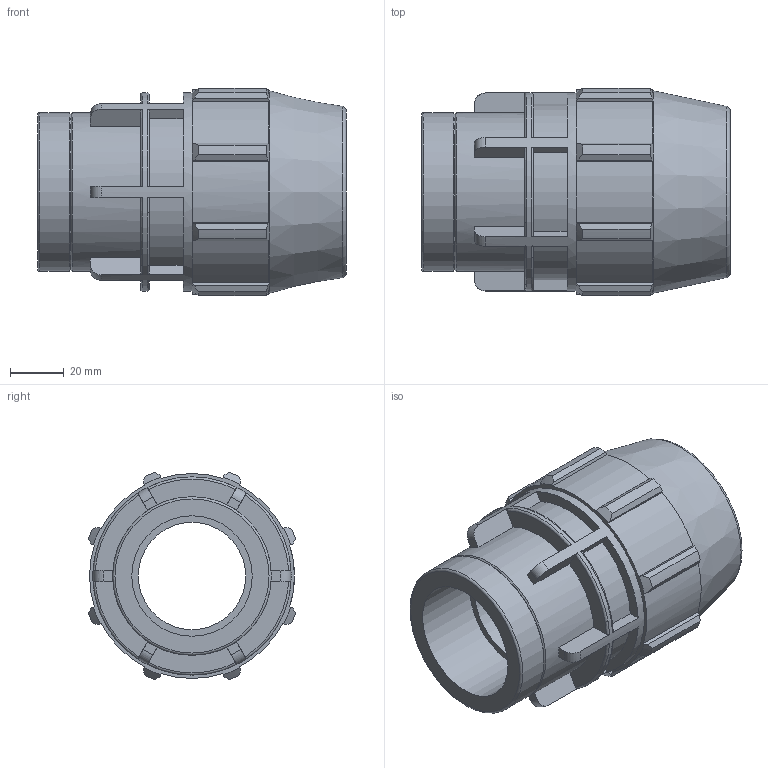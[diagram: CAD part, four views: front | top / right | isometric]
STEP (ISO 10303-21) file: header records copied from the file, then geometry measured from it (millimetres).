
FILE_DESCRIPTION(/* description */ ('PLASSON FEMALE ADAPTOR G 1 1/4'''' - 1 1/2''''F'),/* implementation_level */ '2;1');
FILE_NAME(/* name */ 'C:\Dropbox\KIMPROJECTS-Inventor 2019\99-16-3568-Processing Inch\ASTM Compression 2021\0703M0T\0703M0T13015.ipt.stp',/* time_stamp */ '2021-08-26T12:31:04+03:00',/* author */ ('KIM'),/* organization */ (''),/* preprocessor_version */ 'ST-DEVELOPER v17.2',/* originating_system */ 'Autodesk Inventor 2019',/* authorisation */ '');
FILE_SCHEMA (('AUTOMOTIVE_DESIGN { 1 0 10303 214 3 1 1 }'));
Length unit declared in the file: inch
Products named in the file (1): 0703M0T13015
Bounding box: 115.06 x 77.2 x 77.2 mm (x, y, z)
Volume: 255875.9 mm3; surface area: 50486.7 mm2
Topology: 1 solids, 1 shells, 148 faces, 420 edges, 284 vertices
Faces by surface type: plane 86, cylinder 28, torus 20, cone 14
Full cylindrical faces by diameter (mm): 39.995 x1, 42.1 x1, 44.845 x1, 59.07 x2, 73.838 x1
Entity records: 5404 total; most frequent: CARTESIAN_POINT 1337, ORIENTED_EDGE 840, DIRECTION 798, EDGE_CURVE 420, AXIS2_PLACEMENT_3D 297, VERTEX_POINT 284, LINE 204, VECTOR 204
